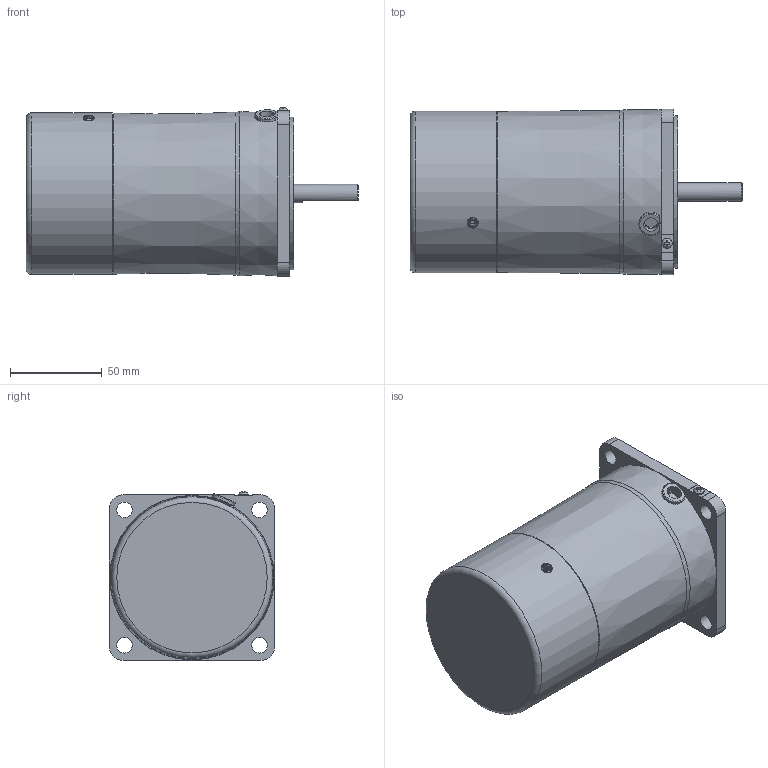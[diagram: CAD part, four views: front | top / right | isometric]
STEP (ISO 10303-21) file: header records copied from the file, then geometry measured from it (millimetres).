
FILE_DESCRIPTION(/* description */ (''),/* implementation_level */ '2;1');
FILE_NAME(/* name */ 'E:\도면작업\2016\0704) 미주향 SG 도면\3D MOTOR\ELECTROMAGNETIC BRAKE\SG9R(I)40D_-E.stp',/* time_stamp */ '2017-03-21T14:43:49+09:00',/* author */ ('jy-jung'),/* organization */ (''),/* preprocessor_version */ 'ST-DEVELOPER v15.6',/* originating_system */ 'Autodesk Inventor 2015',/* authorisation */ '');
FILE_SCHEMA (('AUTOMOTIVE_DESIGN { 1 0 10303 214 3 1 1 }'));
Length unit declared in the file: millimetre
Products named in the file (1): 부품23
Bounding box: 180.5 x 90 x 91.76 mm (x, y, z)
Volume: 883497 mm3; surface area: 60922.5 mm2
Topology: 1 solids, 2 shells, 107 faces, 272 edges, 184 vertices
Faces by surface type: plane 64, cylinder 33, torus 6, cone 3, bspline 1
Full cylindrical faces by diameter (mm): 3.1 x1, 4.6 x1, 5 x2, 5.6 x1, 6 x1, 8 x1, 8.5 x4, 10 x2, 40 x1, 83 x1, 86 x1, 87.8 x1
Entity records: 3343 total; most frequent: CARTESIAN_POINT 700, DIRECTION 516, ORIENTED_EDGE 472, EDGE_CURVE 236, AXIS2_PLACEMENT_3D 195, VERTEX_POINT 173, EDGE_LOOP 157, LINE 126
